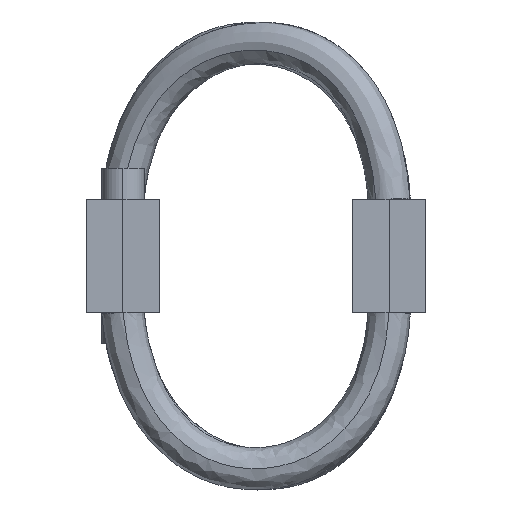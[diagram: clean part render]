
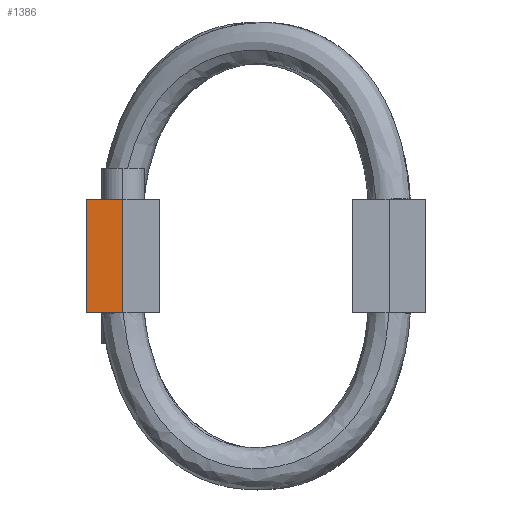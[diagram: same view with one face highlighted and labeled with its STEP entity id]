
A CAD part, left-side view. The second image highlights one B-rep face of the part: STEP entity #1386.
In plain terms, the highlighted planar face has unit normal (-1, 0, 0).
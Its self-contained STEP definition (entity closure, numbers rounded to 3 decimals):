
#1124 = VECTOR ( 'NONE', #10987, 1000. ) ;
#1326 = VERTEX_POINT ( 'NONE', #25408 ) ;
#1386 = ADVANCED_FACE ( 'NONE', ( #2127 ), #21269, .T. ) ;
#1686 = LINE ( 'NONE', #21380, #12367 ) ;
#2127 = FACE_OUTER_BOUND ( 'NONE', #3674, .T. ) ;
#3346 = DIRECTION ( 'NONE',  ( 0., 0., -1. ) ) ;
#3674 = EDGE_LOOP ( 'NONE', ( #4331, #21101, #24382, #25750 ) ) ;
#3989 = VECTOR ( 'NONE', #15512, 1000. ) ;
#4331 = ORIENTED_EDGE ( 'NONE', *, *, #22106, .F. ) ;
#6210 = AXIS2_PLACEMENT_3D ( 'NONE', #21368, #21182, #21093 ) ;
#6496 = LINE ( 'NONE', #20995, #1124 ) ;
#7485 = VERTEX_POINT ( 'NONE', #15365 ) ;
#10906 = VERTEX_POINT ( 'NONE', #24644 ) ;
#10987 = DIRECTION ( 'NONE',  ( 0., 0., 1. ) ) ;
#11935 = EDGE_CURVE ( 'NONE', #10906, #1326, #6496, .T. ) ;
#12106 = EDGE_CURVE ( 'NONE', #20193, #10906, #20616, .T. ) ;
#12367 = VECTOR ( 'NONE', #3346, 1000. ) ;
#13503 = CARTESIAN_POINT ( 'NONE',  ( -84.6, 38., -12.7 ) ) ;
#15365 = CARTESIAN_POINT ( 'NONE',  ( -84.6, 29.85, 12.7 ) ) ;
#15512 = DIRECTION ( 'NONE',  ( 0., 1., 0. ) ) ;
#15653 = CARTESIAN_POINT ( 'NONE',  ( -84.6, 38., 12.7 ) ) ;
#17654 = DIRECTION ( 'NONE',  ( 0., -1., 0. ) ) ;
#19256 = CARTESIAN_POINT ( 'NONE',  ( -84.6, 29.85, -12.7 ) ) ;
#20193 = VERTEX_POINT ( 'NONE', #19256 ) ;
#20616 = LINE ( 'NONE', #13503, #3989 ) ;
#20995 = CARTESIAN_POINT ( 'NONE',  ( -84.6, 38., -12.7 ) ) ;
#21093 = DIRECTION ( 'NONE',  ( 0., 0., 1. ) ) ;
#21101 = ORIENTED_EDGE ( 'NONE', *, *, #11935, .F. ) ;
#21182 = DIRECTION ( 'NONE',  ( -1., 0., 0. ) ) ;
#21269 = PLANE ( 'NONE',  #6210 ) ;
#21368 = CARTESIAN_POINT ( 'NONE',  ( -84.6, 33.925, 0. ) ) ;
#21380 = CARTESIAN_POINT ( 'NONE',  ( -84.6, 29.85, -12.7 ) ) ;
#22106 = EDGE_CURVE ( 'NONE', #1326, #7485, #24032, .T. ) ;
#22439 = EDGE_CURVE ( 'NONE', #7485, #20193, #1686, .T. ) ;
#23374 = VECTOR ( 'NONE', #17654, 1000. ) ;
#24032 = LINE ( 'NONE', #15653, #23374 ) ;
#24382 = ORIENTED_EDGE ( 'NONE', *, *, #12106, .F. ) ;
#24644 = CARTESIAN_POINT ( 'NONE',  ( -84.6, 38., -12.7 ) ) ;
#25408 = CARTESIAN_POINT ( 'NONE',  ( -84.6, 38., 12.7 ) ) ;
#25750 = ORIENTED_EDGE ( 'NONE', *, *, #22439, .F. ) ;
